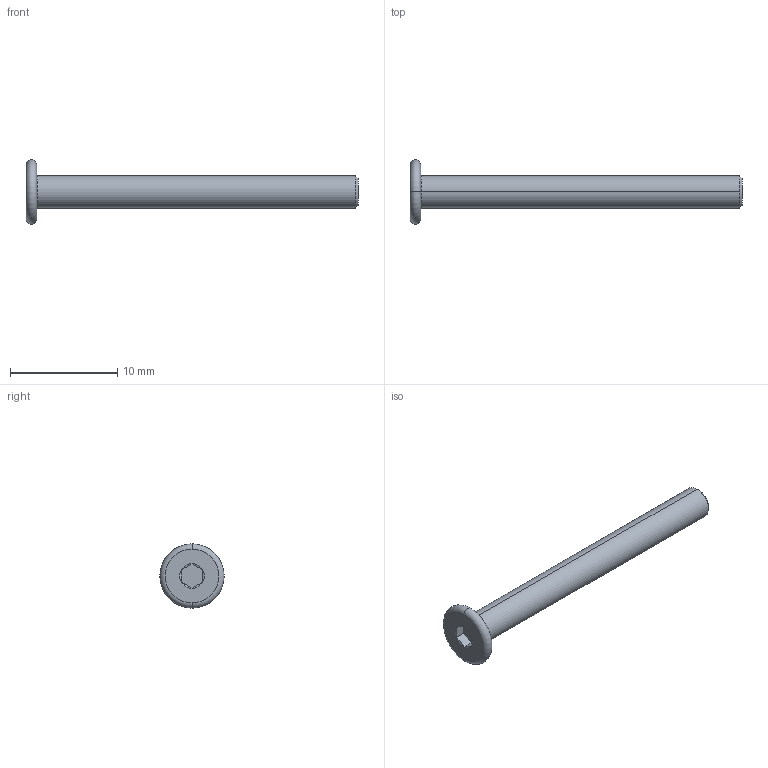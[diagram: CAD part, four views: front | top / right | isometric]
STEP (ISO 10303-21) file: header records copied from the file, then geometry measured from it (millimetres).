
FILE_DESCRIPTION (( 'STEP AP203' ), '1' );
FILE_NAME ('LGD-304M-M3x30.STEP', '2026-08-13T09:42:07', ( '' ), ( '' ), 'SwSTEP 2.0', 'SolidWorks 2020', '' );
FILE_SCHEMA (( 'CONFIG_CONTROL_DESIGN' ));
Length unit declared in the file: millimetre
Products named in the file (1): LGD-304M-M3x30
Bounding box: 31 x 6 x 6 mm (x, y, z)
Volume: 234.7 mm3; surface area: 355 mm2
Topology: 1 solids, 1 shells, 24 faces, 44 edges, 24 vertices
Faces by surface type: plane 10, cone 8, torus 4, cylinder 2
Entity records: 677 total; most frequent: CARTESIAN_POINT 123, DIRECTION 110, ORIENTED_EDGE 88, AXIS2_PLACEMENT_3D 47, EDGE_CURVE 44, EDGE_LOOP 26, FACE_OUTER_BOUND 24, VERTEX_POINT 24
